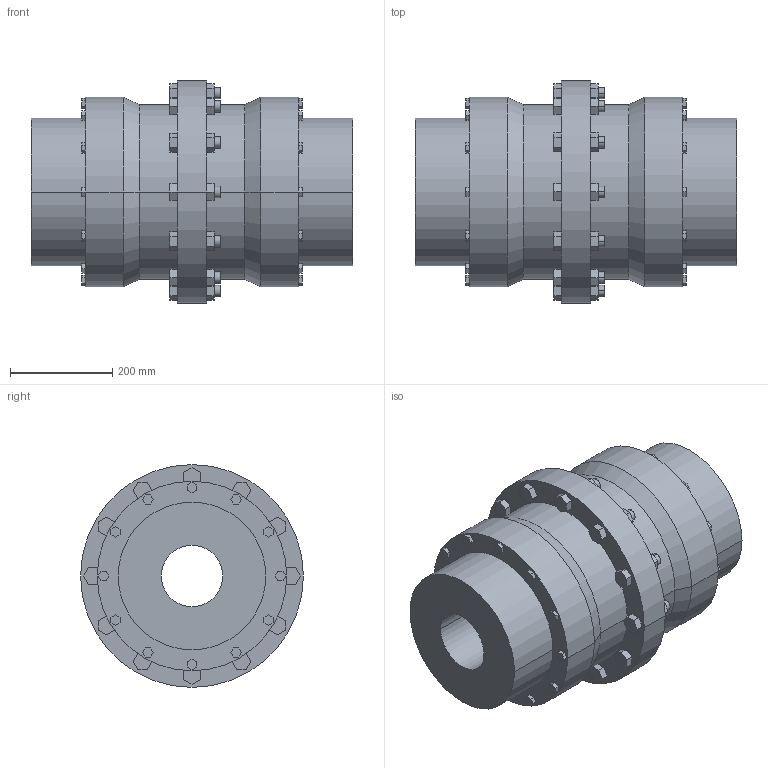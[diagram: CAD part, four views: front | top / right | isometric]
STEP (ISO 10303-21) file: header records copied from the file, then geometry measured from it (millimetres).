
FILE_DESCRIPTION((''),'2;1');
FILE_NAME('A19715900-0_ASM','2019-05-23T',('AB_Roschiwal'),('RENK AG'),'PRO/ENGINEER BY PARAMETRIC TECHNOLOGY CORPORATION, 2015440','PRO/ENGINEER BY PARAMETRIC TECHNOLOGY CORPORATION, 2015440','');
FILE_SCHEMA(('CONFIG_CONTROL_DESIGN'));
Length unit declared in the file: millimetre
Products named in the file (3): SBK180_GEHAEUSE; SBK180_NABE; A19715900-0_ASM
Assembly tree (3 placements, depth 2):
  A19715900-0_ASM
    SBK180_GEHAEUSE
    SBK180_NABE  x2
Bounding box: 628 x 435 x 435 mm (x, y, z)
Volume: 38643006.9 mm3; surface area: 1979533 mm2
Topology: 3 solids, 3 shells, 422 faces, 1036 edges, 688 vertices
Faces by surface type: plane 362, cylinder 56, cone 4
Entity records: 12052 total; most frequent: CARTESIAN_POINT 2100, ORIENTED_EDGE 2024, DIRECTION 1940, EDGE_CURVE 1012, VECTOR 916, LINE 916, VERTEX_POINT 672, AXIS2_PLACEMENT_3D 512
